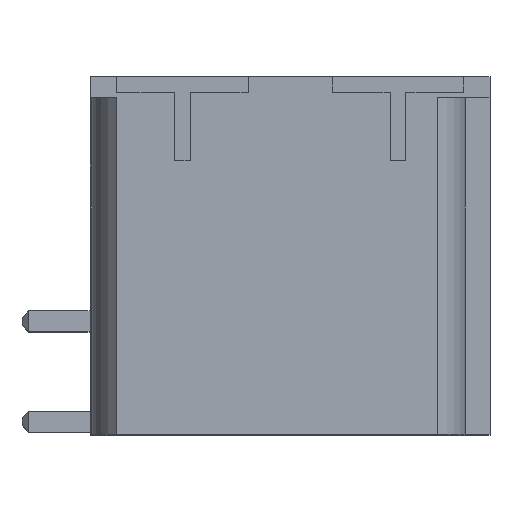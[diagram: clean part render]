
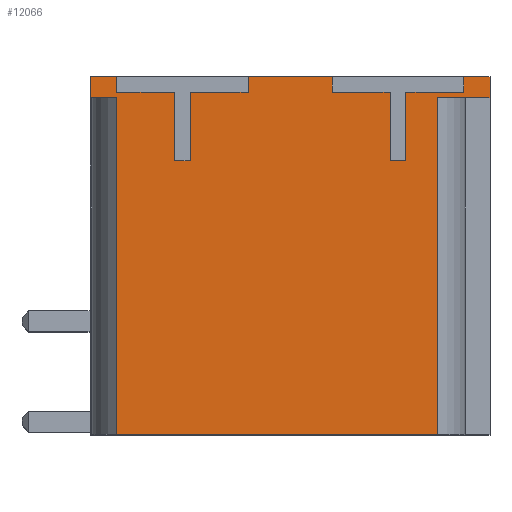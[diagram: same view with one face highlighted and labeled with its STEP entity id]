
A CAD part, top view. The second image highlights one B-rep face of the part: STEP entity #12066.
In plain terms, the highlighted planar face has unit normal (0, 0, 1).
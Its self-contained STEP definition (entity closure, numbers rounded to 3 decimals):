
#1790=DIRECTION('',(0.,1.,0.));
#1791=VECTOR('',#1790,0.8);
#1792=CARTESIAN_POINT('',(2.6,12.81,-11.803));
#1793=LINE('',#1792,#1791);
#1794=DIRECTION('',(1.,0.,0.));
#1795=VECTOR('',#1794,1.);
#1796=CARTESIAN_POINT('',(2.6,13.61,-11.803));
#1797=LINE('',#1796,#1795);
#1798=DIRECTION('',(0.,-1.,0.));
#1799=VECTOR('',#1798,0.6);
#1800=CARTESIAN_POINT('',(3.6,13.61,-11.803));
#1801=LINE('',#1800,#1799);
#1802=DIRECTION('',(1.,0.,0.));
#1803=VECTOR('',#1802,2.2);
#1804=CARTESIAN_POINT('',(3.6,13.01,-11.803));
#1805=LINE('',#1804,#1803);
#1806=DIRECTION('',(0.,-1.,0.));
#1807=VECTOR('',#1806,2.6);
#1808=CARTESIAN_POINT('',(5.8,13.01,-11.803));
#1809=LINE('',#1808,#1807);
#1810=DIRECTION('',(1.,0.,0.));
#1811=VECTOR('',#1810,0.6);
#1812=CARTESIAN_POINT('',(5.8,10.41,-11.803));
#1813=LINE('',#1812,#1811);
#1814=DIRECTION('',(0.,1.,0.));
#1815=VECTOR('',#1814,2.6);
#1816=CARTESIAN_POINT('',(6.4,10.41,-11.803));
#1817=LINE('',#1816,#1815);
#1818=DIRECTION('',(1.,0.,0.));
#1819=VECTOR('',#1818,2.2);
#1820=CARTESIAN_POINT('',(6.4,13.01,-11.803));
#1821=LINE('',#1820,#1819);
#1822=DIRECTION('',(0.,1.,0.));
#1823=VECTOR('',#1822,0.6);
#1824=CARTESIAN_POINT('',(8.6,13.01,-11.803));
#1825=LINE('',#1824,#1823);
#1826=DIRECTION('',(1.,0.,0.));
#1827=VECTOR('',#1826,3.2);
#1828=CARTESIAN_POINT('',(8.6,13.61,-11.803));
#1829=LINE('',#1828,#1827);
#1830=DIRECTION('',(0.,-1.,0.));
#1831=VECTOR('',#1830,0.6);
#1832=CARTESIAN_POINT('',(11.8,13.61,-11.803));
#1833=LINE('',#1832,#1831);
#1834=DIRECTION('',(1.,0.,0.));
#1835=VECTOR('',#1834,2.2);
#1836=CARTESIAN_POINT('',(11.8,13.01,-11.803));
#1837=LINE('',#1836,#1835);
#1838=DIRECTION('',(0.,-1.,0.));
#1839=VECTOR('',#1838,2.6);
#1840=CARTESIAN_POINT('',(14.,13.01,-11.803));
#1841=LINE('',#1840,#1839);
#1842=DIRECTION('',(1.,0.,0.));
#1843=VECTOR('',#1842,0.6);
#1844=CARTESIAN_POINT('',(14.,10.41,-11.803));
#1845=LINE('',#1844,#1843);
#1846=DIRECTION('',(0.,1.,0.));
#1847=VECTOR('',#1846,2.6);
#1848=CARTESIAN_POINT('',(14.6,10.41,-11.803));
#1849=LINE('',#1848,#1847);
#1850=DIRECTION('',(1.,0.,0.));
#1851=VECTOR('',#1850,2.2);
#1852=CARTESIAN_POINT('',(14.6,13.01,-11.803));
#1853=LINE('',#1852,#1851);
#1854=DIRECTION('',(0.,1.,0.));
#1855=VECTOR('',#1854,0.6);
#1856=CARTESIAN_POINT('',(16.8,13.01,-11.803));
#1857=LINE('',#1856,#1855);
#1858=DIRECTION('',(1.,0.,0.));
#1859=VECTOR('',#1858,1.);
#1860=CARTESIAN_POINT('',(16.8,13.61,-11.803));
#1861=LINE('',#1860,#1859);
#1862=DIRECTION('',(0.,-1.,0.));
#1863=VECTOR('',#1862,0.8);
#1864=CARTESIAN_POINT('',(17.8,13.61,-11.803));
#1865=LINE('',#1864,#1863);
#1866=DIRECTION('',(-1.,0.,0.));
#1867=VECTOR('',#1866,2.);
#1868=CARTESIAN_POINT('',(17.8,12.81,-11.803));
#1869=LINE('',#1868,#1867);
#1870=DIRECTION('',(0.,-1.,0.));
#1871=VECTOR('',#1870,12.81);
#1872=CARTESIAN_POINT('',(15.8,12.81,-11.803));
#1873=LINE('',#1872,#1871);
#1874=DIRECTION('',(1.,0.,0.));
#1875=VECTOR('',#1874,1.);
#1876=CARTESIAN_POINT('',(2.6,12.81,-11.803));
#1877=LINE('',#1876,#1875);
#1891=DIRECTION('',(0.,-1.,0.));
#1892=VECTOR('',#1891,12.81);
#1893=CARTESIAN_POINT('',(3.6,12.81,-11.803));
#1894=LINE('',#1893,#1892);
#2011=DIRECTION('',(1.,0.,0.));
#2012=VECTOR('',#2011,12.2);
#2013=CARTESIAN_POINT('',(3.6,0.,-11.803));
#2014=LINE('',#2013,#2012);
#7660=CARTESIAN_POINT('',(17.8,12.81,-11.803));
#7661=VERTEX_POINT('',#7660);
#7662=CARTESIAN_POINT('',(17.8,13.61,-11.803));
#7663=VERTEX_POINT('',#7662);
#7822=CARTESIAN_POINT('',(16.8,13.61,-11.803));
#7823=VERTEX_POINT('',#7822);
#7828=CARTESIAN_POINT('',(11.8,13.61,-11.803));
#7829=VERTEX_POINT('',#7828);
#7830=CARTESIAN_POINT('',(8.6,13.61,-11.803));
#7831=VERTEX_POINT('',#7830);
#7836=CARTESIAN_POINT('',(3.6,13.61,-11.803));
#7837=VERTEX_POINT('',#7836);
#7838=CARTESIAN_POINT('',(2.6,13.61,-11.803));
#7839=VERTEX_POINT('',#7838);
#8234=CARTESIAN_POINT('',(2.6,12.81,-11.803));
#8235=CARTESIAN_POINT('',(3.6,12.81,-11.803));
#8236=VERTEX_POINT('',#8234);
#8237=VERTEX_POINT('',#8235);
#8238=CARTESIAN_POINT('',(3.6,13.01,-11.803));
#8239=VERTEX_POINT('',#8238);
#8240=CARTESIAN_POINT('',(5.8,13.01,-11.803));
#8241=VERTEX_POINT('',#8240);
#8242=CARTESIAN_POINT('',(5.8,10.41,-11.803));
#8243=VERTEX_POINT('',#8242);
#8244=CARTESIAN_POINT('',(6.4,10.41,-11.803));
#8245=VERTEX_POINT('',#8244);
#8246=CARTESIAN_POINT('',(6.4,13.01,-11.803));
#8247=VERTEX_POINT('',#8246);
#8248=CARTESIAN_POINT('',(8.6,13.01,-11.803));
#8249=VERTEX_POINT('',#8248);
#8250=CARTESIAN_POINT('',(11.8,13.01,-11.803));
#8251=VERTEX_POINT('',#8250);
#8252=CARTESIAN_POINT('',(14.,13.01,-11.803));
#8253=VERTEX_POINT('',#8252);
#8254=CARTESIAN_POINT('',(14.,10.41,-11.803));
#8255=VERTEX_POINT('',#8254);
#8256=CARTESIAN_POINT('',(14.6,10.41,-11.803));
#8257=VERTEX_POINT('',#8256);
#8258=CARTESIAN_POINT('',(14.6,13.01,-11.803));
#8259=VERTEX_POINT('',#8258);
#8260=CARTESIAN_POINT('',(16.8,13.01,-11.803));
#8261=VERTEX_POINT('',#8260);
#8262=CARTESIAN_POINT('',(15.8,12.81,-11.803));
#8263=VERTEX_POINT('',#8262);
#8264=CARTESIAN_POINT('',(15.8,0.,-11.803));
#8265=VERTEX_POINT('',#8264);
#8266=CARTESIAN_POINT('',(3.6,0.,-11.803));
#8267=VERTEX_POINT('',#8266);
#12015=CARTESIAN_POINT('',(2.6,0.,-11.803));
#12016=DIRECTION('',(0.,0.,1.));
#12017=DIRECTION('',(1.,0.,0.));
#12018=AXIS2_PLACEMENT_3D('',#12015,#12016,#12017);
#12019=PLANE('',#12018);
#12021=ORIENTED_EDGE('',*,*,#12020,.F.);
#12023=ORIENTED_EDGE('',*,*,#12022,.T.);
#12024=ORIENTED_EDGE('',*,*,#11583,.T.);
#12026=ORIENTED_EDGE('',*,*,#12025,.T.);
#12028=ORIENTED_EDGE('',*,*,#12027,.T.);
#12030=ORIENTED_EDGE('',*,*,#12029,.T.);
#12032=ORIENTED_EDGE('',*,*,#12031,.T.);
#12034=ORIENTED_EDGE('',*,*,#12033,.T.);
#12036=ORIENTED_EDGE('',*,*,#12035,.T.);
#12038=ORIENTED_EDGE('',*,*,#12037,.T.);
#12039=ORIENTED_EDGE('',*,*,#11575,.T.);
#12041=ORIENTED_EDGE('',*,*,#12040,.T.);
#12043=ORIENTED_EDGE('',*,*,#12042,.T.);
#12045=ORIENTED_EDGE('',*,*,#12044,.T.);
#12047=ORIENTED_EDGE('',*,*,#12046,.T.);
#12049=ORIENTED_EDGE('',*,*,#12048,.T.);
#12051=ORIENTED_EDGE('',*,*,#12050,.T.);
#12053=ORIENTED_EDGE('',*,*,#12052,.T.);
#12054=ORIENTED_EDGE('',*,*,#11567,.T.);
#12055=ORIENTED_EDGE('',*,*,#10081,.T.);
#12057=ORIENTED_EDGE('',*,*,#12056,.T.);
#12059=ORIENTED_EDGE('',*,*,#12058,.T.);
#12061=ORIENTED_EDGE('',*,*,#12060,.F.);
#12063=ORIENTED_EDGE('',*,*,#12062,.F.);
#12064=EDGE_LOOP('',(#12021,#12023,#12024,#12026,#12028,#12030,#12032,#12034,
#12036,#12038,#12039,#12041,#12043,#12045,#12047,#12049,#12051,#12053,#12054,
#12055,#12057,#12059,#12061,#12063));
#12065=FACE_OUTER_BOUND('',#12064,.F.);
#12066=ADVANCED_FACE('',(#12065),#12019,.T.);
#10081=EDGE_CURVE('',#7663,#7661,#1865,.T.);
#11567=EDGE_CURVE('',#7823,#7663,#1861,.T.);
#11575=EDGE_CURVE('',#7831,#7829,#1829,.T.);
#11583=EDGE_CURVE('',#7839,#7837,#1797,.T.);
#12020=EDGE_CURVE('',#8236,#8237,#1877,.T.);
#12022=EDGE_CURVE('',#8236,#7839,#1793,.T.);
#12025=EDGE_CURVE('',#7837,#8239,#1801,.T.);
#12027=EDGE_CURVE('',#8239,#8241,#1805,.T.);
#12029=EDGE_CURVE('',#8241,#8243,#1809,.T.);
#12031=EDGE_CURVE('',#8243,#8245,#1813,.T.);
#12033=EDGE_CURVE('',#8245,#8247,#1817,.T.);
#12035=EDGE_CURVE('',#8247,#8249,#1821,.T.);
#12037=EDGE_CURVE('',#8249,#7831,#1825,.T.);
#12040=EDGE_CURVE('',#7829,#8251,#1833,.T.);
#12042=EDGE_CURVE('',#8251,#8253,#1837,.T.);
#12044=EDGE_CURVE('',#8253,#8255,#1841,.T.);
#12046=EDGE_CURVE('',#8255,#8257,#1845,.T.);
#12048=EDGE_CURVE('',#8257,#8259,#1849,.T.);
#12050=EDGE_CURVE('',#8259,#8261,#1853,.T.);
#12052=EDGE_CURVE('',#8261,#7823,#1857,.T.);
#12056=EDGE_CURVE('',#7661,#8263,#1869,.T.);
#12058=EDGE_CURVE('',#8263,#8265,#1873,.T.);
#12060=EDGE_CURVE('',#8267,#8265,#2014,.T.);
#12062=EDGE_CURVE('',#8237,#8267,#1894,.T.);
